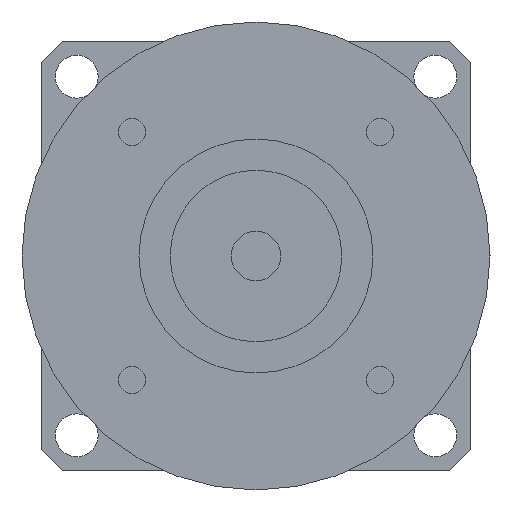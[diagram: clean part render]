
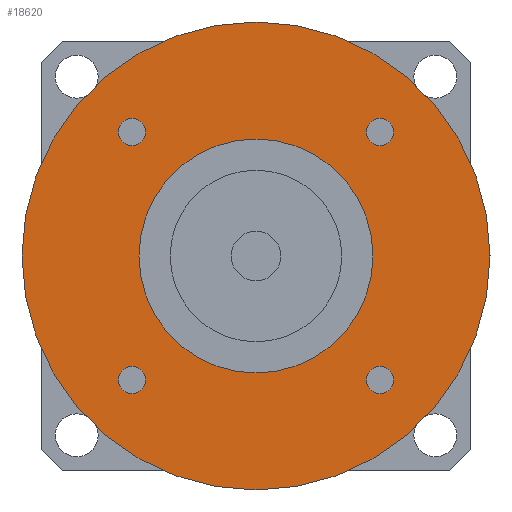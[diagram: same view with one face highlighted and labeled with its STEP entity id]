
A CAD part, left-side view. The second image highlights one B-rep face of the part: STEP entity #18620.
In plain terms, the highlighted planar face has unit normal (-1, 0, 0) as drawn and (0, 0, -1) by its records, which use the part's own axes.
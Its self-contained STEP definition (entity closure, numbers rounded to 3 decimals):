
#11050=CARTESIAN_POINT('',(0.,0.,
-62.));
#11060=DIRECTION('',(0.,0.,1.));
#11070=DIRECTION('',(0.,-1.,0.));
#11080=AXIS2_PLACEMENT_3D('',#11050,#11060,#11070);
#11090=CIRCLE('',#11080,15.);
#11100=CARTESIAN_POINT('',(0.,-15.,-62.));
#11110=VERTEX_POINT('',#11100);
#11120=CARTESIAN_POINT('',(15.,0.,-62.));
#11130=VERTEX_POINT('',#11120);
#11140=EDGE_CURVE('',#11110,#11130,#11090,.T.);
#11370=CARTESIAN_POINT('',(-15.,0.,-62.));
#11380=VERTEX_POINT('',#11370);
#11410=EDGE_CURVE('',#11380,#11110,#11090,.T.);
#12740=CARTESIAN_POINT('',(-14.16,-15.91,-62.));
#12750=VERTEX_POINT('',#12740);
#12930=CARTESIAN_POINT('',(-17.66,-15.91,-62.));
#12940=VERTEX_POINT('',#12930);
#12970=CARTESIAN_POINT('',(-15.91,-15.91,-62.));
#12980=DIRECTION('',(0.,0.,-1.));
#12990=DIRECTION('',(0.,-1.,0.));
#13000=AXIS2_PLACEMENT_3D('',#12970,#12980,#12990);
#13010=CIRCLE('',#13000,1.75);
#13020=CARTESIAN_POINT('',(-15.91,-17.66,-62.));
#13030=VERTEX_POINT('',#13020);
#13040=EDGE_CURVE('',#13030,#12940,#13010,.T.);
#13060=EDGE_CURVE('',#12750,#13030,#13010,.T.);
#17550=CARTESIAN_POINT('',(30.,0.,-62.));
#17560=VERTEX_POINT('',#17550);
#17590=CARTESIAN_POINT('',(0.,0.,
-62.));
#17600=DIRECTION('',(0.,0.,1.));
#17610=DIRECTION('',(0.,-1.,0.));
#17620=AXIS2_PLACEMENT_3D('',#17590,#17600,#17610);
#17630=CIRCLE('',#17620,30.);
#17640=CARTESIAN_POINT('',(0.,-30.,-62.));
#17650=VERTEX_POINT('',#17640);
#17660=EDGE_CURVE('',#17650,#17560,#17630,.T.);
#17680=CARTESIAN_POINT('',(-30.,0.,-62.));
#17690=VERTEX_POINT('',#17680);
#17700=EDGE_CURVE('',#17690,#17650,#17630,.T.);
#17820=CARTESIAN_POINT('',(0.,0.,
-62.));
#17830=DIRECTION('',(0.,0.,1.));
#17840=DIRECTION('',(-1.,0.,0.));
#17850=AXIS2_PLACEMENT_3D('',#17820,#17830,#17840);
#17860=PLANE('',#17850);
#17870=CARTESIAN_POINT('',(15.91,-15.91,-62.));
#17880=DIRECTION('',(0.,0.,-1.));
#17890=DIRECTION('',(1.,0.,0.));
#17900=AXIS2_PLACEMENT_3D('',#17870,#17880,#17890);
#17910=CIRCLE('',#17900,1.75);
#17920=CARTESIAN_POINT('',(17.66,-15.91,-62.));
#17930=VERTEX_POINT('',#17920);
#17940=CARTESIAN_POINT('',(15.91,-17.66,-62.));
#17950=VERTEX_POINT('',#17940);
#17960=EDGE_CURVE('',#17930,#17950,#17910,.T.);
#17970=ORIENTED_EDGE('',*,*,#17960,.F.);
#17980=CARTESIAN_POINT('',(15.91,-14.16,-62.));
#17990=VERTEX_POINT('',#17980);
#18000=EDGE_CURVE('',#17950,#17990,#17910,.T.);
#18010=ORIENTED_EDGE('',*,*,#18000,.F.);
#18020=EDGE_CURVE('',#17990,#17930,#17910,.T.);
#18030=ORIENTED_EDGE('',*,*,#18020,.F.);
#18040=EDGE_LOOP('',(#18030,#18010,#17970));
#18050=FACE_BOUND('',#18040,.T.);
#18060=CARTESIAN_POINT('',(15.91,15.91,-62.));
#18070=DIRECTION('',(0.,0.,-1.));
#18080=DIRECTION('',(0.,1.,0.));
#18090=AXIS2_PLACEMENT_3D('',#18060,#18070,#18080);
#18100=CIRCLE('',#18090,1.75);
#18110=CARTESIAN_POINT('',(15.91,17.66,-62.));
#18120=VERTEX_POINT('',#18110);
#18130=CARTESIAN_POINT('',(17.66,15.91,-62.));
#18140=VERTEX_POINT('',#18130);
#18150=EDGE_CURVE('',#18120,#18140,#18100,.T.);
#18160=ORIENTED_EDGE('',*,*,#18150,.F.);
#18170=CARTESIAN_POINT('',(14.16,15.91,-62.));
#18180=VERTEX_POINT('',#18170);
#18190=EDGE_CURVE('',#18140,#18180,#18100,.T.);
#18200=ORIENTED_EDGE('',*,*,#18190,.F.);
#18210=EDGE_CURVE('',#18180,#18120,#18100,.T.);
#18220=ORIENTED_EDGE('',*,*,#18210,.F.);
#18230=EDGE_LOOP('',(#18220,#18200,#18160));
#18240=FACE_BOUND('',#18230,.T.);
#18250=CARTESIAN_POINT('',(-15.91,15.91,-62.));
#18260=DIRECTION('',(0.,0.,-1.));
#18270=DIRECTION('',(-1.,0.,0.));
#18280=AXIS2_PLACEMENT_3D('',#18250,#18260,#18270);
#18290=CIRCLE('',#18280,1.75);
#18300=CARTESIAN_POINT('',(-17.66,15.91,-62.));
#18310=VERTEX_POINT('',#18300);
#18320=CARTESIAN_POINT('',(-15.91,17.66,-62.));
#18330=VERTEX_POINT('',#18320);
#18340=EDGE_CURVE('',#18310,#18330,#18290,.T.);
#18350=ORIENTED_EDGE('',*,*,#18340,.F.);
#18360=CARTESIAN_POINT('',(-15.91,14.16,-62.));
#18370=VERTEX_POINT('',#18360);
#18380=EDGE_CURVE('',#18330,#18370,#18290,.T.);
#18390=ORIENTED_EDGE('',*,*,#18380,.F.);
#18400=EDGE_CURVE('',#18370,#18310,#18290,.T.);
#18410=ORIENTED_EDGE('',*,*,#18400,.F.);
#18420=EDGE_LOOP('',(#18410,#18390,#18350));
#18430=FACE_BOUND('',#18420,.T.);
#18440=ORIENTED_EDGE('',*,*,#13040,.F.);
#18450=EDGE_CURVE('',#12940,#12750,#13010,.T.);
#18460=ORIENTED_EDGE('',*,*,#18450,.F.);
#18470=ORIENTED_EDGE('',*,*,#13060,.F.);
#18480=EDGE_LOOP('',(#18470,#18460,#18440));
#18490=FACE_BOUND('',#18480,.T.);
#18500=ORIENTED_EDGE('',*,*,#17660,.F.);
#18510=EDGE_CURVE('',#17560,#17690,#17630,.T.);
#18520=ORIENTED_EDGE('',*,*,#18510,.F.);
#18530=ORIENTED_EDGE('',*,*,#17700,.F.);
#18540=EDGE_LOOP('',(#18530,#18520,#18500));
#18550=FACE_OUTER_BOUND('',#18540,.T.);
#18560=EDGE_CURVE('',#11130,#11380,#11090,.T.);
#18570=ORIENTED_EDGE('',*,*,#18560,.T.);
#18580=ORIENTED_EDGE('',*,*,#11140,.T.);
#18590=ORIENTED_EDGE('',*,*,#11410,.T.);
#18600=EDGE_LOOP('',(#18590,#18580,#18570));
#18610=FACE_BOUND('',#18600,.T.);
#18620=ADVANCED_FACE('',(#18050,#18240,#18430,#18490,#18550,#18610),
#17860,.F.);
